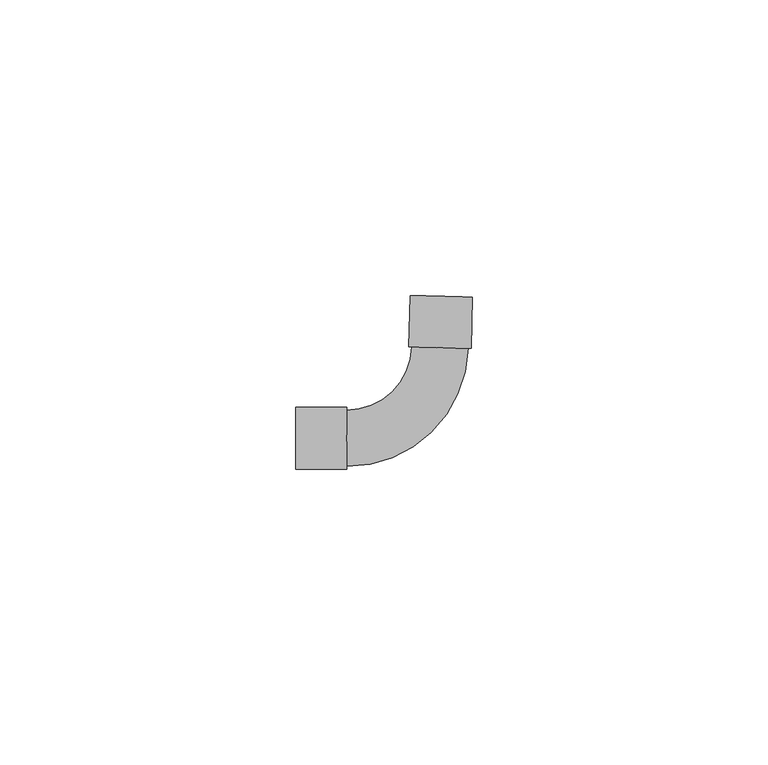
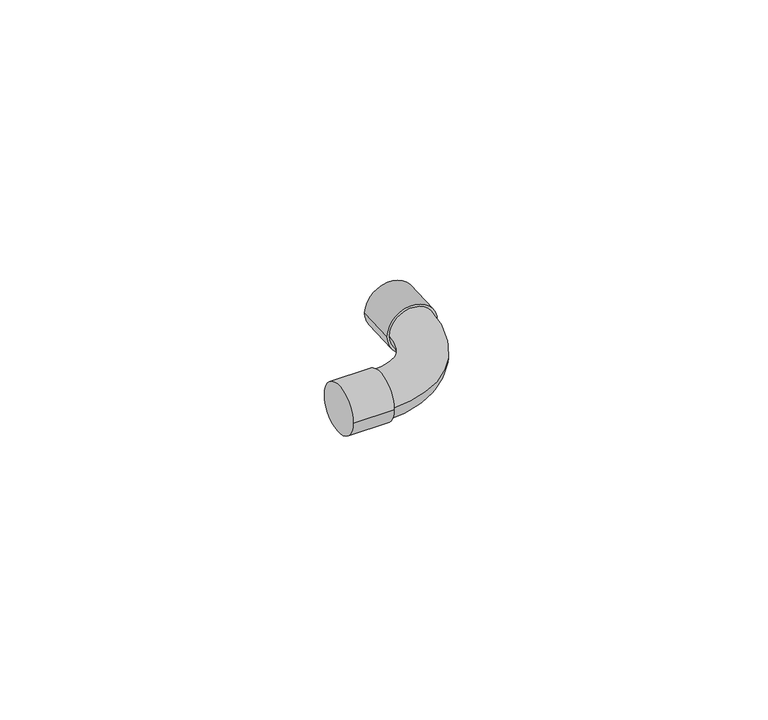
"""IFC4 building model written with IfcOpenShell, lengths in millimetres: pipe fitting geometry, Cotovelo - Soldado - CU : Padrão."""

from ifc_helpers import new_model, si_unit, point, frame, origin, place, context, project, spatial, circle_curve, ellipse_curve, trimmed, source, transform, mapped, element, save
from ifc_brep_helpers import plane_surface, cylinder_surface, revolved_surface, advanced_brep


def pipe_fitting_c2f0a3c7(model_context):
    return source(origin(), model_context, "Body", "AdvancedBrep", [
        advanced_brep(
        [(-4.3328694, 15.4771827, 0.0), (-15.3512, 4.76, 0.0), (-15.3512, -4.76, 0.0), (5.1834763, 15.213432, 0.0), (-24.0256, -5.2552, 0.0), (-24.0256, 5.2552, 0.0), (-15.3512, -5.2552, 0.0), (-15.3512, 5.2552, 0.0), (-4.5875559, 24.1619725, 0.0), (5.9188096, 23.8707829, 0.0), (-4.8278793, 15.4909022, 0.0), (5.6784862, 15.1997126, 0.0)],
        [
            (0, 1, circle_curve(frame((-15.3512, 15.7825617, 0.0), z_axis=(0.0, 0.0, -1.0), x_axis=(0.0, -1.0, 0.0)), 11.0225617)),
            (1, 2, circle_curve(frame((-15.3512, 0.0, 0.0), z_axis=(1.0, 0.0, 0.0), x_axis=(0.0, 1.0, 0.0)), 4.76)),
            (2, 3, circle_curve(frame((-15.3512, 15.7825617, 0.0), z_axis=(0.0, 0.0, 1.0), x_axis=(0.0, -1.0, 0.0)), 20.5425617)),
            (3, 0, circle_curve(frame((0.4253035, 15.3453074, 0.0), z_axis=(-0.027704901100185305, -0.9996161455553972, 0.0), x_axis=(-0.9996161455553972, 0.027704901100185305, 0.0)), 4.76)),
            (0, 3, circle_curve(frame((0.4253035, 15.3453074, 0.0), z_axis=(-0.027704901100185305, -0.9996161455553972, 0.0), x_axis=(-0.9996161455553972, 0.027704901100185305, 0.0)), 4.76)),
            (2, 1, circle_curve(frame((-15.3512, 0.0, 0.0), z_axis=(1.0, 0.0, 0.0), x_axis=(0.0, 1.0, 0.0)), 4.76)),
            (4, 5, circle_curve(frame((-24.0256, 0.0, 0.0), z_axis=(-1.0, 0.0, 0.0), x_axis=(0.0, 1.0, 0.0)), 5.2552)),
            (5, 4, circle_curve(frame((-24.0256, 0.0, 0.0), z_axis=(-1.0, 0.0, 0.0), x_axis=(0.0, 1.0, 0.0)), 5.2552)),
            (6, 7, circle_curve(frame((-15.3512, 0.0, 0.0), z_axis=(1.0, 0.0, 0.0), x_axis=(0.0, 1.0, 0.0)), 5.2552)),
            (7, 6, circle_curve(frame((-15.3512, 0.0, 0.0), z_axis=(1.0, 0.0, 0.0), x_axis=(0.0, 1.0, 0.0)), 5.2552)),
            (4, 6),
            (7, 5),
            (8, 9, circle_curve(frame((0.6656269, 24.0163777, 0.0), z_axis=(0.027704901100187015, 0.9996161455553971, 0.0), x_axis=(0.9996161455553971, -0.027704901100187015, 0.0)), 5.2552)),
            (9, 8, circle_curve(frame((0.6656269, 24.0163777, 0.0), z_axis=(0.027704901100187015, 0.9996161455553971, 0.0), x_axis=(0.9996161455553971, -0.027704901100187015, 0.0)), 5.2552)),
            (10, 11, circle_curve(frame((0.4253035, 15.3453074, 0.0), z_axis=(-0.027704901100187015, -0.9996161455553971, 0.0), x_axis=(0.9996161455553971, -0.027704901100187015, 0.0)), 5.2552)),
            (11, 10, circle_curve(frame((0.4253035, 15.3453074, 0.0), z_axis=(-0.027704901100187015, -0.9996161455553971, 0.0), x_axis=(0.9996161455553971, -0.027704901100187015, 0.0)), 5.2552)),
            (8, 10),
            (11, 9),
        ],
        [
            revolved_surface(trimmed(ellipse_curve(frame((-15.3512, 0.0, 0.0), z_axis=(-1.0, 0.0, 0.0), x_axis=(0.0, 1.0, 0.0)), 4.76, 4.76), [point((-15.3512, -4.76, 0.0))], [point((-15.3512, 4.76, 0.0))], True, "CARTESIAN"), (-15.3512, 15.7825617, 0.0), (0.0, 0.0, 1.0)),
            revolved_surface(trimmed(ellipse_curve(frame((-15.3512, 0.0, 0.0), z_axis=(-1.0, 0.0, 0.0), x_axis=(0.0, 1.0, 0.0)), 4.76, 4.76), [point((-15.3512, 4.76, 0.0))], [point((-15.3512, -4.76, 0.0))], True, "CARTESIAN"), (-15.3512, 15.7825617, 0.0), (0.0, 0.0, 1.0)),
            plane_surface(frame((-24.0256, 0.0, 0.0), z_axis=(-1.0, 0.0, 0.0), x_axis=(0.0, 0.0, 1.0))),
            plane_surface(frame((-15.3512, 0.0, 0.0), z_axis=(1.0, 0.0, 0.0), x_axis=(0.0, 0.0, 1.0))),
            cylinder_surface(frame((-24.0256, 0.0, 0.0), z_axis=(-1.0, 0.0, 0.0), x_axis=(0.0, 1.0, 0.0)), 5.2552),
            plane_surface(frame((0.6656269, 24.0163777, 0.0), z_axis=(0.027704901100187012, 0.9996161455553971, 0.0), x_axis=(0.0, 0.0, 1.0))),
            plane_surface(frame((0.4253035, 15.3453074, 0.0), z_axis=(-0.027704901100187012, -0.9996161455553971, 0.0), x_axis=(0.0, 0.0, 1.0))),
            cylinder_surface(frame((0.6656269, 24.0163777, 0.0), z_axis=(0.027704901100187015, 0.9996161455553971, 0.0), x_axis=(0.9996161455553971, -0.027704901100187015, 0.0)), 5.2552),
        ],
        [
            (0, [[1, 2, 3, 4]]),
            (1, [[-1, 5, -3, 6]]),
            (2, [[7, 8]]),
            (3, [[9, 10], [-2, -6]]),
            (4, [[-7, 11, -10, 12]]),
            (4, [[-8, -12, -9, -11]]),
            (5, [[13, 14]]),
            (6, [[15, 16], [-4, -5]]),
            (7, [[-13, 17, -16, 18]]),
            (7, [[-14, -18, -15, -17]]),
        ],
    ),
    ])


if __name__ == "__main__":
    model = new_model("IFC4")
    model_context = context("Model", 3, world=origin())
    ifc_project = project(units=[si_unit("LENGTHUNIT", "METRE", prefix="MILLI")], contexts=[model_context])
    site = spatial("IfcSite", under=ifc_project)
    building = spatial("IfcBuilding", under=site)
    placement = place(None, origin())
    pipe_fitting_shape = pipe_fitting_c2f0a3c7(model_context)
    element("IfcPipeFitting", 1, ObjectType="Cotovelo - Soldado - CU : Padrão", at=placement, inside=building, context=model_context, shape_type="MappedRepresentation", body=[
        mapped(pipe_fitting_shape, transform((0.0, 0.0, 0.0), x_axis=(1.0, 0.0, 0.0), y_axis=(0.0, 1.0, 0.0), z_axis=(0.0, 0.0, 1.0))),
    ])
    save(model, "model.ifc")
